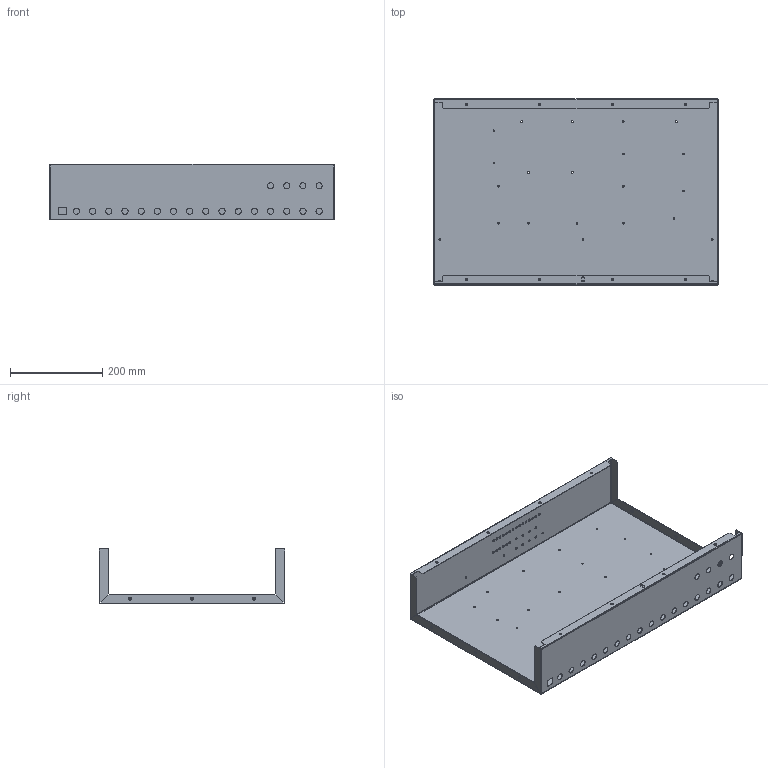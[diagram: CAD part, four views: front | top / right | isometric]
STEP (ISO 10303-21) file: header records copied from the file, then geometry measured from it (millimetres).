
FILE_DESCRIPTION (( 'STEP AP203' ), '1' );
FILE_NAME ('TCB_enclosure_base_revC_wHardware.STEP', '2023-06-08T13:02:16', ( '' ), ( '' ), 'SwSTEP 2.0', 'SolidWorks 2021', '' );
FILE_SCHEMA (( 'CONFIG_CONTROL_DESIGN' ));
Products named in the file (1): TCB_enclosure_base_revC_wHardware
Bounding box: 615.9 x 402.22 x 121 mm (x, y, z)
Volume: 518753.1 mm3; surface area: 880307.2 mm2
Topology: 15 solids, 99 shells, 2920 faces, 7754 edges, 5116 vertices
Faces by surface type: plane 2384, cylinder 424, cone 112
Entity records: 89939 total; most frequent: CARTESIAN_POINT 15791, ORIENTED_EDGE 15508, DIRECTION 14556, EDGE_CURVE 7754, VECTOR 6794, LINE 6794, VERTEX_POINT 5116, AXIS2_PLACEMENT_3D 3881
